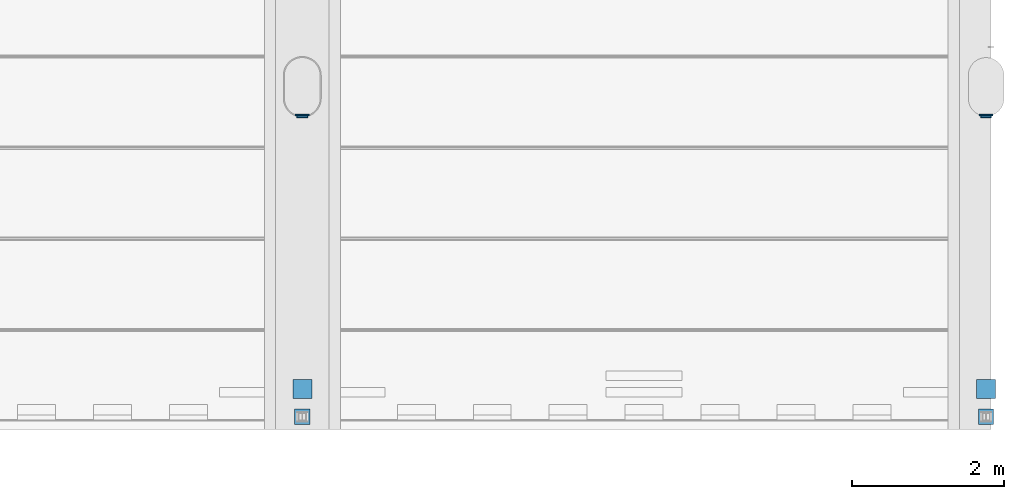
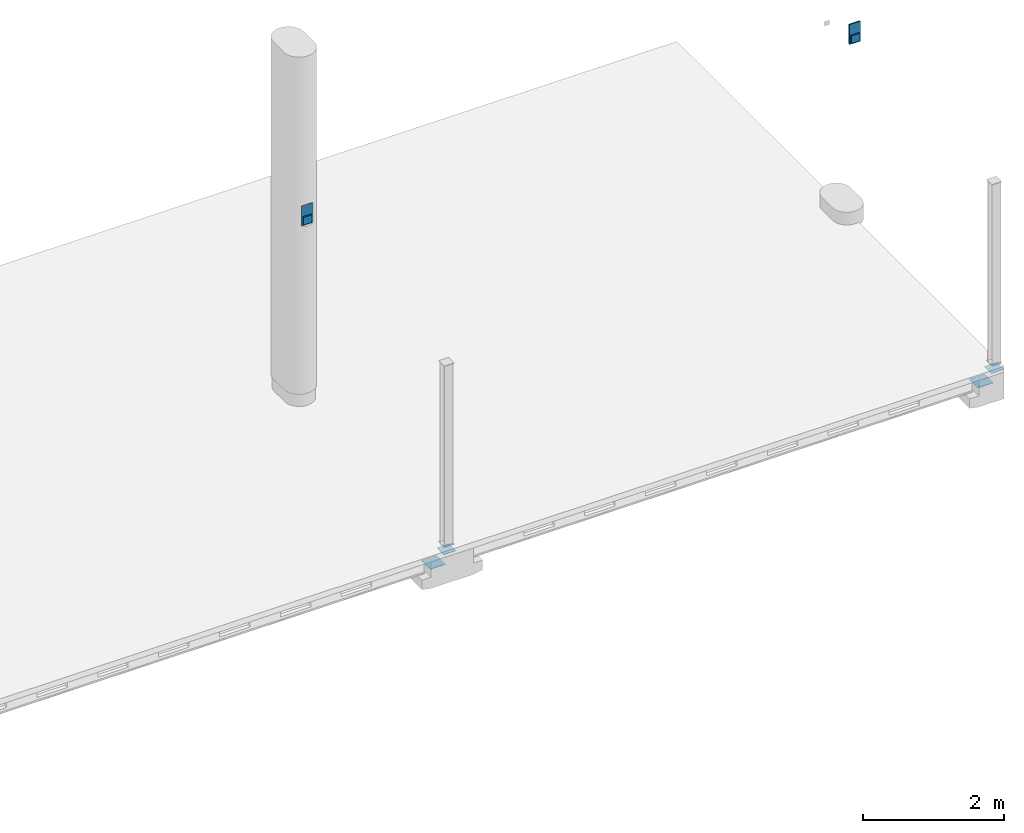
# One storey, part 12 of 15: 8 beams.
"""IFC2X3 building model written with IfcOpenShell, lengths in millimetres."""

from ifc_helpers import new_model, entity, si_unit, converted_unit, derived_unit, direction, frame, origin_with_axes, place, context, subcontext, project, spatial, faceted_brep, material, type_object, element, save


model = new_model("IFC2X3")

# Units and contexts
model_context = context("Model", 3, precision=0.01, world=frame((0.0, 4.29681676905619e-09, 0.0)), true_north=direction((4.01073788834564e-13, 1.0)))
plan_context = context("Plan", 3, precision=0.01, world=frame((0.0, 4.29681676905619e-09, 0.0)), true_north=direction((4.01073788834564e-13, 1.0)))
body_context = subcontext(model_context, "Body", "Model", "MODEL_VIEW")
ifc_project = project(units=[converted_unit("PLANEANGLEUNIT", "DEGREE", entity("IfcPositiveLengthMeasure", 0.0174532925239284), si_unit("PLANEANGLEUNIT", "RADIAN"), dimensions=[0, 0, 0, 0, 0, 0, 0]), si_unit("AREAUNIT", "SQUARE_METRE"), si_unit("LENGTHUNIT", "METRE", prefix="MILLI"), si_unit("MASSUNIT", "GRAM", prefix="KILO"), si_unit("POWERUNIT", "WATT"), si_unit("PRESSUREUNIT", "PASCAL", prefix="KILO"), si_unit("FORCEUNIT", "NEWTON", prefix="KILO"), si_unit("ELECTRICVOLTAGEUNIT", "VOLT"), si_unit("ELECTRICCURRENTUNIT", "AMPERE"), si_unit("THERMODYNAMICTEMPERATUREUNIT", "DEGREE_CELSIUS"), si_unit("TIMEUNIT", "SECOND"), si_unit("VOLUMEUNIT", "CUBIC_METRE"), derived_unit("LINEARVELOCITYUNIT", [(si_unit("LENGTHUNIT", "METRE"), 1), (si_unit("TIMEUNIT", "SECOND"), -1)]), derived_unit("VOLUMETRICFLOWRATEUNIT", [(si_unit("VOLUMEUNIT", "CUBIC_METRE"), 1), (si_unit("TIMEUNIT", "SECOND"), -1)]), derived_unit("THERMALTRANSMITTANCEUNIT", [(si_unit("POWERUNIT", "WATT"), 1), (si_unit("THERMODYNAMICTEMPERATUREUNIT", "KELVIN"), -1), (si_unit("AREAUNIT", "SQUARE_METRE"), -1)]), derived_unit("SOUNDPRESSUREUNIT", [(si_unit("PRESSUREUNIT", "PASCAL"), 1)])], contexts=[model_context, plan_context])

# Site, building, storey
site_placement = place(None, frame((0.0, -4.29681676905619e-09, 0.0), z_axis=(0.0, 0.0, 1.0), x_axis=(1.0, 0.0, 0.0)))
site = spatial("IfcSite", under=ifc_project, at=site_placement, Name="Gardermoen", CompositionType="ELEMENT")
building_placement = place(site_placement, frame((0.0, 4.29681676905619e-09, 0.0), z_axis=(0.0, 0.0, 1.0), x_axis=(1.0, 0.0, 0.0)))
building = spatial("IfcBuilding", under=site, at=building_placement, Name="TG", CompositionType="ELEMENT")
storey_placement = place(building_placement, origin_with_axes())
storey = spatial("IfcBuildingStorey", under=building, at=storey_placement, Name="F", CompositionType="ELEMENT", Elevation=0.0)

# Beams
ifc_material = material(Name="STEEL/S355")
beam_type_1 = type_object("IfcBeamType", Name="25*140", PredefinedType="NOTDEFINED")
for number, where, z_axis, x_axis in (
    (1, (348999.999125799, 462308.504375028, 213425.0), (0.0, -1.0, 0.0), (0.0, 0.0, -1.0)),
    (2, (339999.999125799, 462308.504375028, 213425.0), (0.0, -1.0, 0.0), (0.0, 0.0, -1.0)),
):
    element("IfcBeam", number, at=place(storey_placement, frame(where, z_axis=z_axis, x_axis=x_axis)), inside=storey, type_object=beam_type_1, material=ifc_material, Name="STÅLBJELKE", ObjectType="25*140", context=body_context, shape_type="Brep", body=[
        faceted_brep([(5.82076609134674e-10, 69.9999999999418, -12.5000000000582), (6.98491930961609e-10, 69.9999999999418, 12.5), (129.999999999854, 69.9999999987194, 12.5000000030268), (129.999999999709, 69.9999999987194, -12.4999999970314), (-6.11180439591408e-10, -70.0000000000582, 12.5), (129.999999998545, -70.0000000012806, 12.5000000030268), (-7.27595761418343e-10, -70.0000000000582, -12.5000000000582), (129.999999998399, -70.0000000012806, -12.4999999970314)], [[[0, 1, 2, 3]], [[1, 4, 5, 2]], [[4, 6, 7, 5]], [[6, 0, 3, 7]], [[5, 7, 3, 2]], [[6, 4, 1, 0]]]),
    ])
beam_type_2 = type_object("IfcBeamType", Name="20*180", PredefinedType="NOTDEFINED")
for number, where, z_axis, x_axis in (
    (3, (348999.999766, 462331.004375, 213265.0), (0.0, 1.0, 0.0), (0.0, 0.0, 1.0)),
    (4, (339999.999766, 462331.004375, 213265.0), (0.0, 1.0, 0.0), (0.0, 0.0, 1.0)),
):
    element("IfcBeam", number, at=place(storey_placement, frame(where, z_axis=z_axis, x_axis=x_axis)), inside=storey, type_object=beam_type_2, material=ifc_material, Name="INNSTØPNGODS", ObjectType="20*180", context=body_context, shape_type="Brep", body=[
        faceted_brep([(0.0, 90.0, -10.0), (0.0, 90.0, 10.0), (350.0, 90.0, 10.0), (350.0, 90.0, -10.0), (0.0, -90.0, 10.0), (350.0, -90.0, 10.0), (0.0, -90.0, -10.0), (350.0, -90.0, -10.0)], [[[0, 1, 2, 3]], [[1, 4, 5, 2]], [[4, 6, 7, 5]], [[6, 0, 3, 7]], [[5, 7, 3, 2]], [[6, 4, 1, 0]]]),
    ])
beam_type_3 = type_object("IfcBeamType", Name="250*10", PredefinedType="NOTDEFINED")
for number, where, z_axis, x_axis in (
    (5, (348999.989595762, 458600.002853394, 209575.00076294), (0.999999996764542, 8.04419999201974e-05, 0.0), (-8.04419999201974e-05, 0.999999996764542, 0.0)),
    (6, (339999.99993692, 458600.002853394, 209575.00076294), (0.999999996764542, 8.04419999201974e-05, 0.0), (-8.04419999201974e-05, 0.999999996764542, 0.0)),
):
    element("IfcBeam", number, at=place(storey_placement, frame(where, z_axis=z_axis, x_axis=x_axis)), inside=storey, type_object=beam_type_3, material=ifc_material, Name="INNSTØPNGODS", ObjectType="250*10", context=body_context, shape_type="Brep", body=[
        faceted_brep([(0.0, 5.0, -125.0), (0.0, 5.0, 125.0), (250.0, 5.0, 125.0), (250.0, 5.0, -125.0), (0.0, -5.0, 125.0), (250.0, -5.0, 125.0), (0.0, -5.0, -125.0), (250.0, -5.0, -125.0)], [[[0, 1, 2, 3]], [[1, 4, 5, 2]], [[4, 6, 7, 5]], [[6, 0, 3, 7]], [[5, 7, 3, 2]], [[6, 4, 1, 0]]]),
    ])
beam_type_4 = type_object("IfcBeamType", Name="200*10", PredefinedType="NOTDEFINED")
for number, where, z_axis, x_axis in (
    (7, (349000.03448176, 458458.004372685, 210025.0), (-0.999999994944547, 0.000100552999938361, 0.0), (-0.000100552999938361, -0.999999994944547, 0.0)),
    (8, (340000.03448176, 458458.004372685, 210025.0), (-0.999999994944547, 0.000100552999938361, 0.0), (-0.000100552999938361, -0.999999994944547, 0.0)),
):
    element("IfcBeam", number, at=place(storey_placement, frame(where, z_axis=z_axis, x_axis=x_axis)), inside=storey, type_object=beam_type_4, material=ifc_material, Name="INNSTØPNGODS", ObjectType="200*10", context=body_context, shape_type="Brep", body=[
        faceted_brep([(0.0, 5.0, -100.0), (0.0, 5.0, 100.0), (200.000000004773, 5.0, 100.000000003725), (200.000000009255, 5.0, -99.9999999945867), (0.0, -5.0, 100.0), (200.000000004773, -5.0, 100.000000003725), (0.0, -5.0, -100.0), (200.000000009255, -5.0, -99.9999999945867)], [[[0, 1, 2, 3]], [[1, 4, 5, 2]], [[4, 6, 7, 5]], [[6, 0, 3, 7]], [[5, 7, 3, 2]], [[6, 4, 1, 0]]]),
    ])

save(model, "model.ifc")
